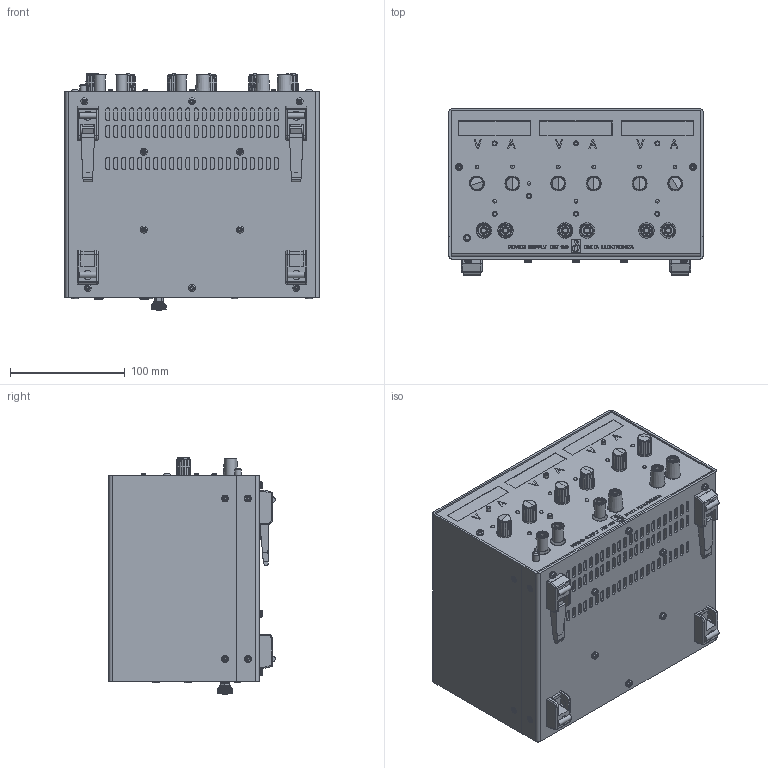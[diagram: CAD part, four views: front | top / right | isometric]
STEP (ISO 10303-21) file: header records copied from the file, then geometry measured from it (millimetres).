
FILE_DESCRIPTION(/* description */ (''),/* implementation_level */ '2;1');
FILE_NAME(/* name */ 'A:\Data\EST150\presentation\EST150.stp',/* time_stamp */ '2021-01-11T09:06:43+01:00',/* author */ ('Delta'),/* organization */ (''),/* preprocessor_version */ 'ST-DEVELOPER v17.2',/* originating_system */ 'Autodesk Inventor 2019',/* authorisation */ '');
FILE_SCHEMA (('AUTOMOTIVE_DESIGN { 1 0 10303 214 3 1 1 }'));
Products named in the file (1): assembly EST150outside_Shrinkwrap_1
Bounding box: 222 x 145.4 x 206.7 mm (x, y, z)
Volume: 5175391.1 mm3; surface area: 228705.2 mm2
Topology: 1 solids, 1 shells, 5016 faces, 12595 edges, 7918 vertices
Faces by surface type: plane 2704, bspline 913, cylinder 680, cone 313, torus 236, sphere 170
Full cylindrical faces by diameter (mm): 0.7 x1, 2.9 x6, 3.2 x6, 4 x9, 4.1 x2, 4.3 x6, 4.5 x2, 4.75 x4, 5 x1, 5.5 x1, 5.8 x1, 6 x37, 6.5 x6, 7.3 x4, 7.8 x6, 8 x4, 8.8 x2, 9.3 x6, 10.5 x1, 10.7 x6, 13.5 x6
Entity records: 167967 total; most frequent: CARTESIAN_POINT 49250, ORIENTED_EDGE 25020, DIRECTION 21492, EDGE_CURVE 12510, VERTEX_POINT 7918, AXIS2_PLACEMENT_3D 7460, LINE 6572, VECTOR 6572
